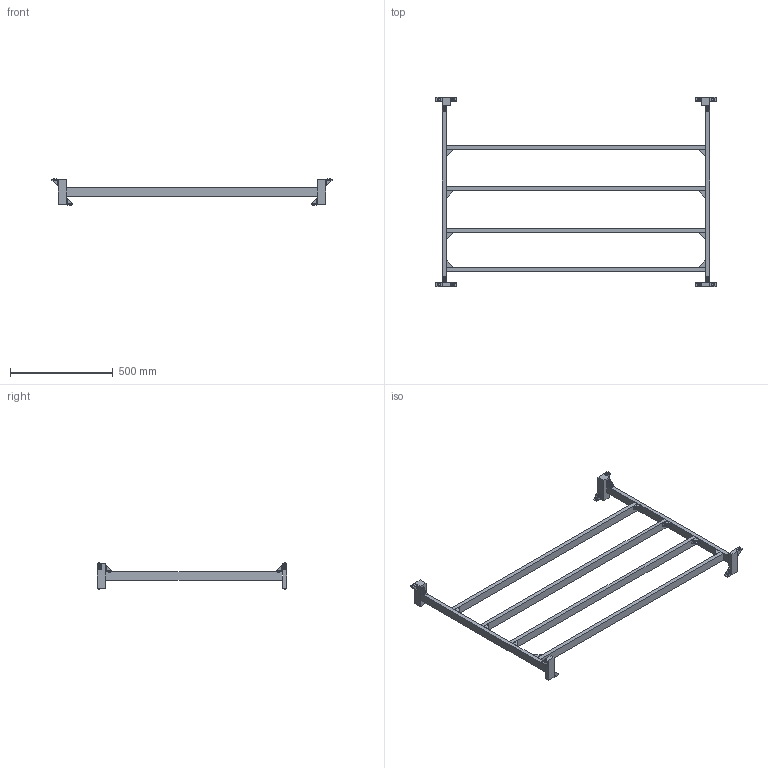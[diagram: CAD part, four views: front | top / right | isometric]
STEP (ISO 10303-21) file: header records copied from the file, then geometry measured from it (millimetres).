
FILE_DESCRIPTION(/* description */ (''),/* implementation_level */ '2;1');
FILE_NAME(/* name */ 'frame-table',/* time_stamp */ '2013-11-26T23:53:09+01:00',/* author */ (''),/* organization */ (''),/* preprocessor_version */ 'ST-DEVELOPER v14',/* originating_system */ '',/* authorisation */ '');
FILE_SCHEMA (('AUTOMOTIVE_DESIGN'));
Length unit declared in the file: millimetre
Products named in the file (7): Document; tslot nut, pre, M5; angle bracket, single; washer DIN6797, lock, M5; screw DIN912, cap, M5x10; nut tslot, post, M5; screw DIN912-like, M5x10
Assembly tree (62 placements, depth 2):
  Document
    tslot nut, pre, M5  x12
    angle bracket, single  x10
    washer DIN6797, lock, M5  x12
    screw DIN912, cap, M5x10  x12
    nut tslot, post, M5  x8
    screw DIN912-like, M5x10  x8
Bounding box: 1360 x 920 x 131 mm (x, y, z)
Volume: 6138134.4 mm3; surface area: 1016038.3 mm2
Topology: 134 solids, 134 shells, 1628 faces, 3768 edges, 2416 vertices
Faces by surface type: plane 1076, bspline 552
Entity records: 57396 total; most frequent: CARTESIAN_POINT 27400, B_SPLINE_CURVE_WITH_KNOTS 5234, ORIENTED_EDGE 4232, PCURVE 4232, DEFINITIONAL_REPRESENTATION 4232, SURFACE_CURVE 2116, EDGE_CURVE 2116, VERTEX_POINT 1369
